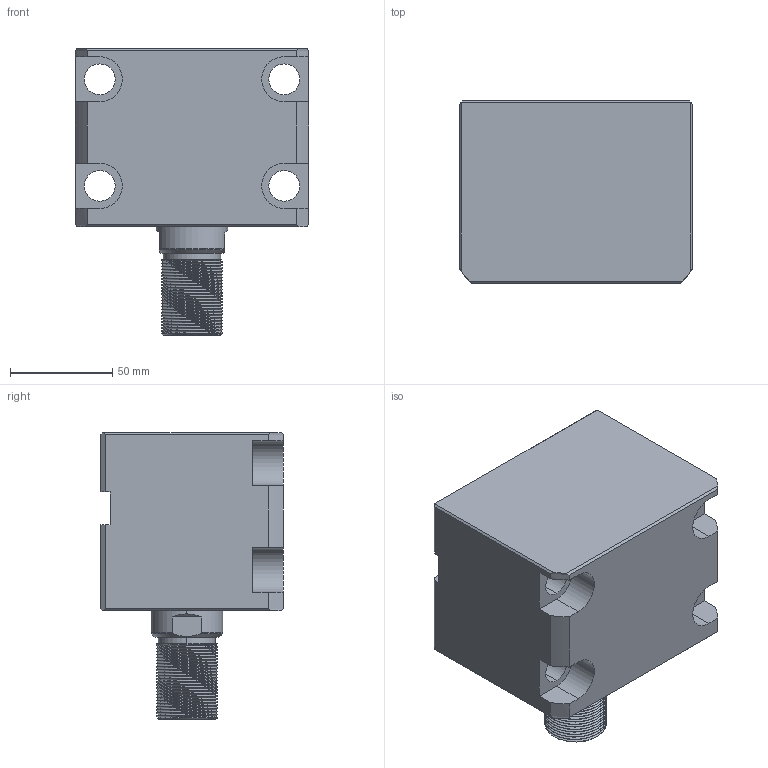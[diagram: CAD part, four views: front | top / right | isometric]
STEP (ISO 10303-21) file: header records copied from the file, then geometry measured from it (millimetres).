
FILE_DESCRIPTION (( 'STEP AP214' ), '1' );
FILE_NAME ('chtb-lam63x20w_asm.STEP', '2018-05-22T03:26:20', ( 'Windows' ), ( 'Microsoft' ), 'SwSTEP 2.0', 'SolidWorks 2015', '' );
FILE_SCHEMA (( 'AUTOMOTIVE_DESIGN' ));
Length unit declared in the file: millimetre
Products named in the file (4): chtb-lam63x20w_asm; CHTB-LAM63X20NBT; CHTB63X20WHSG; CHTB-63QG
Assembly tree (3 placements, depth 2):
  chtb-lam63x20w_asm
    CHTB-63QG
    CHTB63X20WHSG
    CHTB-LAM63X20NBT
Bounding box: 114 x 89 x 140 mm (x, y, z)
Volume: 788041.8 mm3; surface area: 129591.1 mm2
Topology: 3 solids, 3 shells, 229 faces, 681 edges, 463 vertices
Faces by surface type: cylinder 145, plane 54, bspline 15, cone 9, torus 6
Entity records: 23331 total; most frequent: CARTESIAN_POINT 17747, ORIENTED_EDGE 1354, DIRECTION 909, EDGE_CURVE 677, VERTEX_POINT 463, AXIS2_PLACEMENT_3D 330, EDGE_LOOP 252, VECTOR 249
